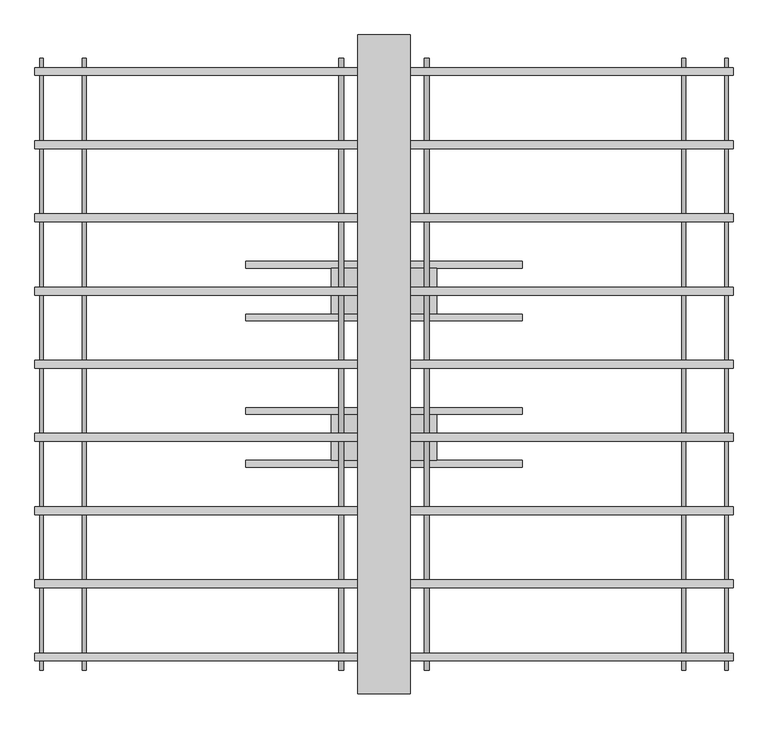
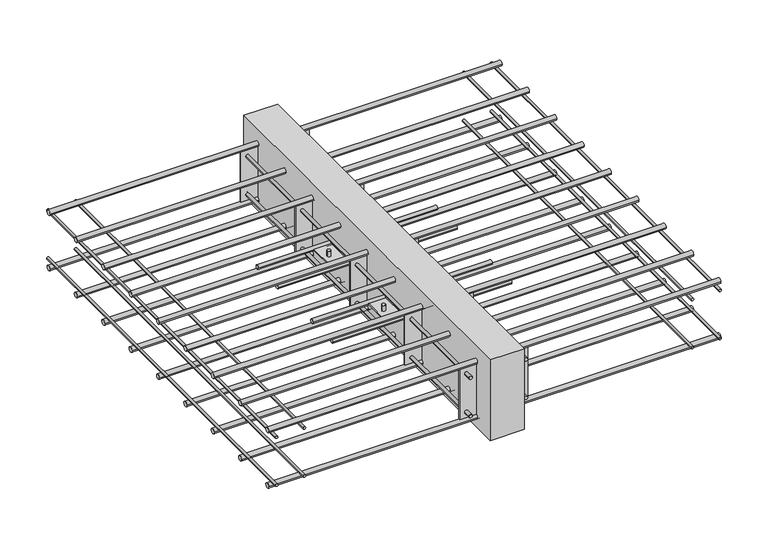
"""IFC4 building model written with IfcOpenShell, lengths in millimetres: proxy geometry, ACINOXplus_Typenreihe_M : MF+ S2."""

from ifc_helpers import new_model, si_unit, point, frame, frame_2d, origin, place, context, project, spatial, polyline, circle_curve, trimmed, segment, composite_curve, outline, extrude, source, transform, mapped, element, save
from ifc_brep_helpers import plane_surface, cylinder_surface, advanced_brep


def generic_models_7ecacc7d(model_context):
    return source(origin(), model_context, "Body", "SolidModel", [
        extrude(outline(composite_curve([segment(trimmed(circle_curve(frame_2d((-151.1111111, -104.5)), 5.0), [point((-156.1111111, -104.5))], [point((-146.1111111, -104.5))], False, "CARTESIAN"), True, "CONTINUOUS"), segment(trimmed(circle_curve(frame_2d((-151.1111111, -104.5)), 5.0), [point((-146.1111111, -104.5))], [point((-156.1111111, -104.5))], False, "CARTESIAN"), True, "CONTINUOUS")], self_intersect=False)), frame((-210.0, 0.0, 0.0), z_axis=(1.0, 0.0, 0.0), x_axis=(0.0, 1.0, 0.0)), (0.0, 0.0, 1.0), 420.0),
        extrude(outline(composite_curve([segment(trimmed(circle_curve(frame_2d((-71.1111111, -104.5)), 5.0), [point((-76.1111111, -104.5))], [point((-66.1111111, -104.5))], False, "CARTESIAN"), True, "CONTINUOUS"), segment(trimmed(circle_curve(frame_2d((-71.1111111, -104.5)), 5.0), [point((-66.1111111, -104.5))], [point((-76.1111111, -104.5))], False, "CARTESIAN"), True, "CONTINUOUS")], self_intersect=False)), frame((-210.0, 0.0, 0.0), z_axis=(1.0, 0.0, 0.0), x_axis=(0.0, 1.0, 0.0)), (0.0, 0.0, 1.0), 420.0),
        advanced_brep(
        [(-69.0, -111.1111111, -89.5), (-61.0, -111.1111111, -89.5), (61.0, -111.1111111, -89.5), (69.0, -111.1111111, -89.5), (-69.0, -111.1111111, -119.5), (-61.0, -111.1111111, -119.5), (61.0, -111.1111111, -119.5), (69.0, -111.1111111, -119.5), (-69.0, -111.1111111, -103.0), (-61.0, -111.1111111, -103.0), (-61.0, -111.1111111, -106.0), (-69.0, -111.1111111, -106.0), (61.0, -111.1111111, -103.0), (69.0, -111.1111111, -103.0), (69.0, -111.1111111, -106.0), (61.0, -111.1111111, -106.0), (80.0, -76.1111111, -103.0), (-80.0, -76.1111111, -103.0), (-80.0, -146.1111111, -103.0), (80.0, -146.1111111, -103.0), (80.0, -76.1111111, -106.0), (80.0, -146.1111111, -106.0), (-80.0, -146.1111111, -106.0), (-80.0, -76.1111111, -106.0)],
        [
            (0, 1, circle_curve(frame((-65.0, -111.1111111, -89.5), z_axis=(0.0, 0.0, 1.0), x_axis=(1.0, 0.0, 0.0)), 4.0)),
            (1, 0, circle_curve(frame((-65.0, -111.1111111, -89.5), z_axis=(0.0, 0.0, 1.0), x_axis=(1.0, 0.0, 0.0)), 4.0)),
            (2, 3, circle_curve(frame((65.0, -111.1111111, -89.5), z_axis=(0.0, 0.0, 1.0), x_axis=(1.0, 0.0, 0.0)), 4.0)),
            (3, 2, circle_curve(frame((65.0, -111.1111111, -89.5), z_axis=(0.0, 0.0, 1.0), x_axis=(1.0, 0.0, 0.0)), 4.0)),
            (4, 5, circle_curve(frame((-65.0, -111.1111111, -119.5), z_axis=(0.0, 0.0, -1.0), x_axis=(1.0, 0.0, 0.0)), 4.0)),
            (5, 4, circle_curve(frame((-65.0, -111.1111111, -119.5), z_axis=(0.0, 0.0, -1.0), x_axis=(1.0, 0.0, 0.0)), 4.0)),
            (6, 7, circle_curve(frame((65.0, -111.1111111, -119.5), z_axis=(0.0, 0.0, -1.0), x_axis=(1.0, 0.0, 0.0)), 4.0)),
            (7, 6, circle_curve(frame((65.0, -111.1111111, -119.5), z_axis=(0.0, 0.0, -1.0), x_axis=(1.0, 0.0, 0.0)), 4.0)),
            (0, 8),
            (8, 9, circle_curve(frame((-65.0, -111.1111111, -103.0), z_axis=(0.0, 0.0, 1.0), x_axis=(1.0, 0.0, 0.0)), 4.0)),
            (9, 1),
            (5, 10),
            (10, 11, circle_curve(frame((-65.0, -111.1111111, -106.0), z_axis=(0.0, 0.0, -1.0), x_axis=(1.0, 0.0, 0.0)), 4.0)),
            (11, 4),
            (9, 8, circle_curve(frame((-65.0, -111.1111111, -103.0), z_axis=(0.0, 0.0, 1.0), x_axis=(1.0, 0.0, 0.0)), 4.0)),
            (11, 10, circle_curve(frame((-65.0, -111.1111111, -106.0), z_axis=(0.0, 0.0, -1.0), x_axis=(1.0, 0.0, 0.0)), 4.0)),
            (2, 12),
            (12, 13, circle_curve(frame((65.0, -111.1111111, -103.0), z_axis=(0.0, 0.0, 1.0), x_axis=(1.0, 0.0, 0.0)), 4.0)),
            (13, 3),
            (7, 14),
            (14, 15, circle_curve(frame((65.0, -111.1111111, -106.0), z_axis=(0.0, 0.0, -1.0), x_axis=(1.0, 0.0, 0.0)), 4.0)),
            (15, 6),
            (13, 12, circle_curve(frame((65.0, -111.1111111, -103.0), z_axis=(0.0, 0.0, 1.0), x_axis=(1.0, 0.0, 0.0)), 4.0)),
            (15, 14, circle_curve(frame((65.0, -111.1111111, -106.0), z_axis=(0.0, 0.0, -1.0), x_axis=(1.0, 0.0, 0.0)), 4.0)),
            (16, 17),
            (17, 18),
            (18, 19),
            (19, 16),
            (20, 21),
            (21, 22),
            (22, 23),
            (23, 20),
            (16, 20),
            (23, 17),
            (22, 18),
            (21, 19),
        ],
        [
            plane_surface(frame((-61.0, -111.1111111, -89.5), z_axis=(0.0, 0.0, 1.0), x_axis=(0.0, 1.0, 0.0))),
            plane_surface(frame((-61.0, -111.1111111, -119.5), z_axis=(0.0, 0.0, -1.0), x_axis=(0.0, -1.0, 0.0))),
            cylinder_surface(frame((-65.0, -111.1111111, -119.5), z_axis=(0.0, 0.0, 1.0), x_axis=(1.0, 0.0, 0.0)), 4.0),
            cylinder_surface(frame((65.0, -111.1111111, -104.5), z_axis=(0.0, 0.0, 1.0), x_axis=(1.0, 0.0, 0.0)), 4.0),
            plane_surface(frame((-80.0, -76.1111111, -103.0), z_axis=(0.0, 0.0, 1.0), x_axis=(-1.0, 0.0, 0.0))),
            plane_surface(frame((-80.0, -76.1111111, -106.0), z_axis=(0.0, 0.0, -1.0), x_axis=(1.0, 0.0, 0.0))),
            plane_surface(frame((80.0, -76.1111111, -103.0), z_axis=(0.0, 1.0, 0.0), x_axis=(0.0, 0.0, -1.0))),
            plane_surface(frame((-80.0, -76.1111111, -103.0), z_axis=(-1.0, 0.0, 0.0), x_axis=(0.0, 0.0, -1.0))),
            plane_surface(frame((-80.0, -146.1111111, -103.0), z_axis=(0.0, -1.0, 0.0), x_axis=(0.0, 0.0, -1.0))),
            plane_surface(frame((80.0, -146.1111111, -103.0), z_axis=(1.0, 0.0, 0.0), x_axis=(0.0, 0.0, -1.0))),
        ],
        [
            (0, [[1, 2]]),
            (0, [[3, 4]]),
            (1, [[5, 6]]),
            (1, [[7, 8]]),
            (2, [[-1, 9, 10, 11]]),
            (2, [[-6, 12, 13, 14]]),
            (2, [[-2, -11, 15, -9]]),
            (2, [[-5, -14, 16, -12]]),
            (3, [[-3, 17, 18, 19]]),
            (3, [[-8, 20, 21, 22]]),
            (3, [[-4, -19, 23, -17]]),
            (3, [[-7, -22, 24, -20]]),
            (4, [[25, 26, 27, 28], [-10, -15], [-18, -23]]),
            (5, [[29, 30, 31, 32], [-13, -16], [-21, -24]]),
            (6, [[-25, 33, -32, 34]]),
            (7, [[-26, -34, -31, 35]]),
            (8, [[-27, -35, -30, 36]]),
            (9, [[-28, -36, -29, -33]]),
        ],
    ),
        extrude(outline(composite_curve([segment(trimmed(circle_curve(frame_2d((71.1111111, -104.5)), 5.0), [point((66.1111111, -104.5))], [point((76.1111111, -104.5))], False, "CARTESIAN"), True, "CONTINUOUS"), segment(trimmed(circle_curve(frame_2d((71.1111111, -104.5)), 5.0), [point((76.1111111, -104.5))], [point((66.1111111, -104.5))], False, "CARTESIAN"), True, "CONTINUOUS")], self_intersect=False)), frame((-210.0, 0.0, 0.0), z_axis=(1.0, 0.0, 0.0), x_axis=(0.0, 1.0, 0.0)), (0.0, 0.0, 1.0), 420.0),
        extrude(outline(composite_curve([segment(trimmed(circle_curve(frame_2d((151.1111111, -104.5)), 5.0), [point((146.1111111, -104.5))], [point((156.1111111, -104.5))], False, "CARTESIAN"), True, "CONTINUOUS"), segment(trimmed(circle_curve(frame_2d((151.1111111, -104.5)), 5.0), [point((156.1111111, -104.5))], [point((146.1111111, -104.5))], False, "CARTESIAN"), True, "CONTINUOUS")], self_intersect=False)), frame((-210.0, 0.0, 0.0), z_axis=(1.0, 0.0, 0.0), x_axis=(0.0, 1.0, 0.0)), (0.0, 0.0, 1.0), 420.0),
        advanced_brep(
        [(-69.0, 111.1111111, -89.5), (-61.0, 111.1111111, -89.5), (61.0, 111.1111111, -89.5), (69.0, 111.1111111, -89.5), (-69.0, 111.1111111, -119.5), (-61.0, 111.1111111, -119.5), (61.0, 111.1111111, -119.5), (69.0, 111.1111111, -119.5), (-69.0, 111.1111111, -103.0), (-61.0, 111.1111111, -103.0), (-61.0, 111.1111111, -106.0), (-69.0, 111.1111111, -106.0), (61.0, 111.1111111, -103.0), (69.0, 111.1111111, -103.0), (69.0, 111.1111111, -106.0), (61.0, 111.1111111, -106.0), (80.0, 146.1111111, -103.0), (-80.0, 146.1111111, -103.0), (-80.0, 76.1111111, -103.0), (80.0, 76.1111111, -103.0), (80.0, 146.1111111, -106.0), (80.0, 76.1111111, -106.0), (-80.0, 76.1111111, -106.0), (-80.0, 146.1111111, -106.0)],
        [
            (0, 1, circle_curve(frame((-65.0, 111.1111111, -89.5), z_axis=(0.0, 0.0, 1.0), x_axis=(1.0, 0.0, 0.0)), 4.0)),
            (1, 0, circle_curve(frame((-65.0, 111.1111111, -89.5), z_axis=(0.0, 0.0, 1.0), x_axis=(1.0, 0.0, 0.0)), 4.0)),
            (2, 3, circle_curve(frame((65.0, 111.1111111, -89.5), z_axis=(0.0, 0.0, 1.0), x_axis=(1.0, 0.0, 0.0)), 4.0)),
            (3, 2, circle_curve(frame((65.0, 111.1111111, -89.5), z_axis=(0.0, 0.0, 1.0), x_axis=(1.0, 0.0, 0.0)), 4.0)),
            (4, 5, circle_curve(frame((-65.0, 111.1111111, -119.5), z_axis=(0.0, 0.0, -1.0), x_axis=(1.0, 0.0, 0.0)), 4.0)),
            (5, 4, circle_curve(frame((-65.0, 111.1111111, -119.5), z_axis=(0.0, 0.0, -1.0), x_axis=(1.0, 0.0, 0.0)), 4.0)),
            (6, 7, circle_curve(frame((65.0, 111.1111111, -119.5), z_axis=(0.0, 0.0, -1.0), x_axis=(1.0, 0.0, 0.0)), 4.0)),
            (7, 6, circle_curve(frame((65.0, 111.1111111, -119.5), z_axis=(0.0, 0.0, -1.0), x_axis=(1.0, 0.0, 0.0)), 4.0)),
            (0, 8),
            (8, 9, circle_curve(frame((-65.0, 111.1111111, -103.0), z_axis=(0.0, 0.0, 1.0), x_axis=(1.0, 0.0, 0.0)), 4.0)),
            (9, 1),
            (5, 10),
            (10, 11, circle_curve(frame((-65.0, 111.1111111, -106.0), z_axis=(0.0, 0.0, -1.0), x_axis=(1.0, 0.0, 0.0)), 4.0)),
            (11, 4),
            (9, 8, circle_curve(frame((-65.0, 111.1111111, -103.0), z_axis=(0.0, 0.0, 1.0), x_axis=(1.0, 0.0, 0.0)), 4.0)),
            (11, 10, circle_curve(frame((-65.0, 111.1111111, -106.0), z_axis=(0.0, 0.0, -1.0), x_axis=(1.0, 0.0, 0.0)), 4.0)),
            (2, 12),
            (12, 13, circle_curve(frame((65.0, 111.1111111, -103.0), z_axis=(0.0, 0.0, 1.0), x_axis=(1.0, 0.0, 0.0)), 4.0)),
            (13, 3),
            (7, 14),
            (14, 15, circle_curve(frame((65.0, 111.1111111, -106.0), z_axis=(0.0, 0.0, -1.0), x_axis=(1.0, 0.0, 0.0)), 4.0)),
            (15, 6),
            (13, 12, circle_curve(frame((65.0, 111.1111111, -103.0), z_axis=(0.0, 0.0, 1.0), x_axis=(1.0, 0.0, 0.0)), 4.0)),
            (15, 14, circle_curve(frame((65.0, 111.1111111, -106.0), z_axis=(0.0, 0.0, -1.0), x_axis=(1.0, 0.0, 0.0)), 4.0)),
            (16, 17),
            (17, 18),
            (18, 19),
            (19, 16),
            (20, 21),
            (21, 22),
            (22, 23),
            (23, 20),
            (16, 20),
            (23, 17),
            (22, 18),
            (21, 19),
        ],
        [
            plane_surface(frame((-61.0, 111.1111111, -89.5), z_axis=(0.0, 0.0, 1.0), x_axis=(0.0, 1.0, 0.0))),
            plane_surface(frame((-61.0, 111.1111111, -119.5), z_axis=(0.0, 0.0, -1.0), x_axis=(0.0, -1.0, 0.0))),
            cylinder_surface(frame((-65.0, 111.1111111, -119.5), z_axis=(0.0, 0.0, 1.0), x_axis=(1.0, 0.0, 0.0)), 4.0),
            cylinder_surface(frame((65.0, 111.1111111, -104.5), z_axis=(0.0, 0.0, 1.0), x_axis=(1.0, 0.0, 0.0)), 4.0),
            plane_surface(frame((-80.0, 146.1111111, -103.0), z_axis=(0.0, 0.0, 1.0), x_axis=(-1.0, 0.0, 0.0))),
            plane_surface(frame((-80.0, 146.1111111, -106.0), z_axis=(0.0, 0.0, -1.0), x_axis=(1.0, 0.0, 0.0))),
            plane_surface(frame((80.0, 146.1111111, -103.0), z_axis=(0.0, 1.0, 0.0), x_axis=(0.0, 0.0, -1.0))),
            plane_surface(frame((-80.0, 146.1111111, -103.0), z_axis=(-1.0, 0.0, 0.0), x_axis=(0.0, 0.0, -1.0))),
            plane_surface(frame((-80.0, 76.1111111, -103.0), z_axis=(0.0, -1.0, 0.0), x_axis=(0.0, 0.0, -1.0))),
            plane_surface(frame((80.0, 76.1111111, -103.0), z_axis=(1.0, 0.0, 0.0), x_axis=(0.0, 0.0, -1.0))),
        ],
        [
            (0, [[1, 2]]),
            (0, [[3, 4]]),
            (1, [[5, 6]]),
            (1, [[7, 8]]),
            (2, [[-1, 9, 10, 11]]),
            (2, [[-6, 12, 13, 14]]),
            (2, [[-2, -11, 15, -9]]),
            (2, [[-5, -14, 16, -12]]),
            (3, [[-3, 17, 18, 19]]),
            (3, [[-8, 20, 21, 22]]),
            (3, [[-4, -19, 23, -17]]),
            (3, [[-7, -22, 24, -20]]),
            (4, [[25, 26, 27, 28], [-10, -15], [-18, -23]]),
            (5, [[29, 30, 31, 32], [-13, -16], [-21, -24]]),
            (6, [[-25, 33, -32, 34]]),
            (7, [[-26, -34, -31, 35]]),
            (8, [[-27, -35, -30, 36]]),
            (9, [[-28, -36, -29, -33]]),
        ],
    ),
        extrude(outline(polyline([(40.0, 500.0), (40.0, -500.0), (-40.0, -500.0), (-40.0, 500.0), (40.0, 500.0)])), frame((0.0, 0.0, -200.0), z_axis=(0.0, 0.0, 1.0), x_axis=(1.0, 0.0, 0.0)), (0.0, 0.0, 1.0), 200.0),
        extrude(outline(polyline([(80.0, -220.7222222), (80.0, -223.7222222), (-80.0, -223.7222222), (-80.0, -220.7222222), (80.0, -220.7222222)])), frame((0.0, 0.0, -167.0), z_axis=(0.0, 0.0, 1.0), x_axis=(1.0, 0.0, 0.0)), (0.0, 0.0, 1.0), 125.0),
        extrude(outline(polyline([(80.0, 1.5), (80.0, -1.5), (-80.0, -1.5), (-80.0, 1.5), (80.0, 1.5)])), frame((0.0, 0.0, -167.0), z_axis=(0.0, 0.0, 1.0), x_axis=(1.0, 0.0, 0.0)), (0.0, 0.0, 1.0), 125.0),
        extrude(outline(polyline([(80.0, 223.7222222), (80.0, 220.7222222), (-80.0, 220.7222222), (-80.0, 223.7222222), (80.0, 223.7222222)])), frame((0.0, 0.0, -167.0), z_axis=(0.0, 0.0, 1.0), x_axis=(1.0, 0.0, 0.0)), (0.0, 0.0, 1.0), 125.0),
        extrude(outline(polyline([(80.0, -442.9444444), (80.0, -445.9444444), (-80.0, -445.9444444), (-80.0, -442.9444444), (80.0, -442.9444444)])), frame((0.0, 0.0, -167.0), z_axis=(0.0, 0.0, 1.0), x_axis=(1.0, 0.0, 0.0)), (0.0, 0.0, 1.0), 125.0),
        extrude(outline(polyline([(80.0, 445.9444444), (80.0, 442.9444444), (-80.0, 442.9444444), (-80.0, 445.9444444), (80.0, 445.9444444)])), frame((0.0, 0.0, -167.0), z_axis=(0.0, 0.0, 1.0), x_axis=(1.0, 0.0, 0.0)), (0.0, 0.0, 1.0), 125.0),
        extrude(outline(composite_curve([segment(trimmed(circle_curve(frame_2d((-152.0, -65.0)), 4.0), [point((-152.0, -61.0))], [point((-152.0, -69.0))], False, "CARTESIAN"), True, "CONTINUOUS"), segment(trimmed(circle_curve(frame_2d((-152.0, -65.0)), 4.0), [point((-152.0, -69.0))], [point((-152.0, -61.0))], False, "CARTESIAN"), True, "CONTINUOUS")], self_intersect=False)), frame((0.0, -464.4444444, 0.0), z_axis=(0.0, 1.0, 0.0), x_axis=(0.0, 0.0, 1.0)), (0.0, 0.0, 1.0), 18.5),
        extrude(outline(composite_curve([segment(trimmed(circle_curve(frame_2d((-152.0, -65.0)), 4.0), [point((-152.0, -69.0))], [point((-152.0, -61.0))], False, "CARTESIAN"), True, "CONTINUOUS"), segment(trimmed(circle_curve(frame_2d((-152.0, -65.0)), 4.0), [point((-152.0, -61.0))], [point((-152.0, -69.0))], False, "CARTESIAN"), True, "CONTINUOUS")], self_intersect=False)), frame((0.0, -442.9444444, 0.0), z_axis=(0.0, 1.0, 0.0), x_axis=(0.0, 0.0, 1.0)), (0.0, 0.0, 1.0), 663.6666667),
        extrude(outline(composite_curve([segment(trimmed(circle_curve(frame_2d((-152.0, -65.0)), 4.0), [point((-152.0, -69.0))], [point((-152.0, -61.0))], False, "CARTESIAN"), True, "CONTINUOUS"), segment(trimmed(circle_curve(frame_2d((-152.0, -65.0)), 4.0), [point((-152.0, -61.0))], [point((-152.0, -69.0))], False, "CARTESIAN"), True, "CONTINUOUS")], self_intersect=False)), frame((0.0, 445.9444444, 0.0), z_axis=(0.0, 1.0, 0.0), x_axis=(0.0, 0.0, 1.0)), (0.0, 0.0, 1.0), 18.5),
        extrude(outline(composite_curve([segment(trimmed(circle_curve(frame_2d((-152.0, -65.0)), 4.0), [point((-152.0, -69.0))], [point((-152.0, -61.0))], False, "CARTESIAN"), True, "CONTINUOUS"), segment(trimmed(circle_curve(frame_2d((-152.0, -65.0)), 4.0), [point((-152.0, -61.0))], [point((-152.0, -69.0))], False, "CARTESIAN"), True, "CONTINUOUS")], self_intersect=False)), frame((0.0, 223.7222222, 0.0), z_axis=(0.0, 1.0, 0.0), x_axis=(0.0, 0.0, 1.0)), (0.0, 0.0, 1.0), 219.2222222),
        extrude(outline(composite_curve([segment(trimmed(circle_curve(frame_2d((-152.0, 65.0)), 4.0), [point((-152.0, 69.0))], [point((-152.0, 61.0))], False, "CARTESIAN"), True, "CONTINUOUS"), segment(trimmed(circle_curve(frame_2d((-152.0, 65.0)), 4.0), [point((-152.0, 61.0))], [point((-152.0, 69.0))], False, "CARTESIAN"), True, "CONTINUOUS")], self_intersect=False)), frame((0.0, -464.4444444, 0.0), z_axis=(0.0, 1.0, 0.0), x_axis=(0.0, 0.0, 1.0)), (0.0, 0.0, 1.0), 18.5),
        extrude(outline(composite_curve([segment(trimmed(circle_curve(frame_2d((-152.0, 65.0)), 4.0), [point((-152.0, 61.0))], [point((-152.0, 69.0))], False, "CARTESIAN"), True, "CONTINUOUS"), segment(trimmed(circle_curve(frame_2d((-152.0, 65.0)), 4.0), [point((-152.0, 69.0))], [point((-152.0, 61.0))], False, "CARTESIAN"), True, "CONTINUOUS")], self_intersect=False)), frame((0.0, -442.9444444, 0.0), z_axis=(0.0, 1.0, 0.0), x_axis=(0.0, 0.0, 1.0)), (0.0, 0.0, 1.0), 663.6666667),
        extrude(outline(composite_curve([segment(trimmed(circle_curve(frame_2d((-152.0, 65.0)), 4.0), [point((-152.0, 61.0))], [point((-152.0, 69.0))], False, "CARTESIAN"), True, "CONTINUOUS"), segment(trimmed(circle_curve(frame_2d((-152.0, 65.0)), 4.0), [point((-152.0, 69.0))], [point((-152.0, 61.0))], False, "CARTESIAN"), True, "CONTINUOUS")], self_intersect=False)), frame((0.0, 445.9444444, 0.0), z_axis=(0.0, 1.0, 0.0), x_axis=(0.0, 0.0, 1.0)), (0.0, 0.0, 1.0), 18.5),
        extrude(outline(composite_curve([segment(trimmed(circle_curve(frame_2d((-152.0, 65.0)), 4.0), [point((-152.0, 61.0))], [point((-152.0, 69.0))], False, "CARTESIAN"), True, "CONTINUOUS"), segment(trimmed(circle_curve(frame_2d((-152.0, 65.0)), 4.0), [point((-152.0, 69.0))], [point((-152.0, 61.0))], False, "CARTESIAN"), True, "CONTINUOUS")], self_intersect=False)), frame((0.0, 223.7222222, 0.0), z_axis=(0.0, 1.0, 0.0), x_axis=(0.0, 0.0, 1.0)), (0.0, 0.0, 1.0), 219.2222222),
        extrude(outline(composite_curve([segment(trimmed(circle_curve(frame_2d((-57.0, -65.0)), 4.0), [point((-57.0, -61.0))], [point((-57.0, -69.0))], False, "CARTESIAN"), True, "CONTINUOUS"), segment(trimmed(circle_curve(frame_2d((-57.0, -65.0)), 4.0), [point((-57.0, -69.0))], [point((-57.0, -61.0))], False, "CARTESIAN"), True, "CONTINUOUS")], self_intersect=False)), frame((0.0, -464.4444444, 0.0), z_axis=(0.0, 1.0, 0.0), x_axis=(0.0, 0.0, 1.0)), (0.0, 0.0, 1.0), 18.5),
        extrude(outline(composite_curve([segment(trimmed(circle_curve(frame_2d((-57.0, -65.0)), 4.0), [point((-57.0, -69.0))], [point((-57.0, -61.0))], False, "CARTESIAN"), True, "CONTINUOUS"), segment(trimmed(circle_curve(frame_2d((-57.0, -65.0)), 4.0), [point((-57.0, -61.0))], [point((-57.0, -69.0))], False, "CARTESIAN"), True, "CONTINUOUS")], self_intersect=False)), frame((0.0, -442.9444444, 0.0), z_axis=(0.0, 1.0, 0.0), x_axis=(0.0, 0.0, 1.0)), (0.0, 0.0, 1.0), 663.6666667),
        extrude(outline(composite_curve([segment(trimmed(circle_curve(frame_2d((-57.0, -65.0)), 4.0), [point((-57.0, -69.0))], [point((-57.0, -61.0))], False, "CARTESIAN"), True, "CONTINUOUS"), segment(trimmed(circle_curve(frame_2d((-57.0, -65.0)), 4.0), [point((-57.0, -61.0))], [point((-57.0, -69.0))], False, "CARTESIAN"), True, "CONTINUOUS")], self_intersect=False)), frame((0.0, 445.9444444, 0.0), z_axis=(0.0, 1.0, 0.0), x_axis=(0.0, 0.0, 1.0)), (0.0, 0.0, 1.0), 18.5),
        extrude(outline(composite_curve([segment(trimmed(circle_curve(frame_2d((-57.0, -65.0)), 4.0), [point((-57.0, -69.0))], [point((-57.0, -61.0))], False, "CARTESIAN"), True, "CONTINUOUS"), segment(trimmed(circle_curve(frame_2d((-57.0, -65.0)), 4.0), [point((-57.0, -61.0))], [point((-57.0, -69.0))], False, "CARTESIAN"), True, "CONTINUOUS")], self_intersect=False)), frame((0.0, 223.7222222, 0.0), z_axis=(0.0, 1.0, 0.0), x_axis=(0.0, 0.0, 1.0)), (0.0, 0.0, 1.0), 219.2222222),
        extrude(outline(composite_curve([segment(trimmed(circle_curve(frame_2d((-57.0, 65.0)), 4.0), [point((-57.0, 69.0))], [point((-57.0, 61.0))], False, "CARTESIAN"), True, "CONTINUOUS"), segment(trimmed(circle_curve(frame_2d((-57.0, 65.0)), 4.0), [point((-57.0, 61.0))], [point((-57.0, 69.0))], False, "CARTESIAN"), True, "CONTINUOUS")], self_intersect=False)), frame((0.0, -464.4444444, 0.0), z_axis=(0.0, 1.0, 0.0), x_axis=(0.0, 0.0, 1.0)), (0.0, 0.0, 1.0), 18.5),
        extrude(outline(composite_curve([segment(trimmed(circle_curve(frame_2d((-57.0, 65.0)), 4.0), [point((-57.0, 61.0))], [point((-57.0, 69.0))], False, "CARTESIAN"), True, "CONTINUOUS"), segment(trimmed(circle_curve(frame_2d((-57.0, 65.0)), 4.0), [point((-57.0, 69.0))], [point((-57.0, 61.0))], False, "CARTESIAN"), True, "CONTINUOUS")], self_intersect=False)), frame((0.0, -442.9444444, 0.0), z_axis=(0.0, 1.0, 0.0), x_axis=(0.0, 0.0, 1.0)), (0.0, 0.0, 1.0), 663.6666667),
        extrude(outline(composite_curve([segment(trimmed(circle_curve(frame_2d((-57.0, 65.0)), 4.0), [point((-57.0, 61.0))], [point((-57.0, 69.0))], False, "CARTESIAN"), True, "CONTINUOUS"), segment(trimmed(circle_curve(frame_2d((-57.0, 65.0)), 4.0), [point((-57.0, 69.0))], [point((-57.0, 61.0))], False, "CARTESIAN"), True, "CONTINUOUS")], self_intersect=False)), frame((0.0, 445.9444444, 0.0), z_axis=(0.0, 1.0, 0.0), x_axis=(0.0, 0.0, 1.0)), (0.0, 0.0, 1.0), 18.5),
        extrude(outline(composite_curve([segment(trimmed(circle_curve(frame_2d((-57.0, 65.0)), 4.0), [point((-57.0, 61.0))], [point((-57.0, 69.0))], False, "CARTESIAN"), True, "CONTINUOUS"), segment(trimmed(circle_curve(frame_2d((-57.0, 65.0)), 4.0), [point((-57.0, 69.0))], [point((-57.0, 61.0))], False, "CARTESIAN"), True, "CONTINUOUS")], self_intersect=False)), frame((0.0, 223.7222222, 0.0), z_axis=(0.0, 1.0, 0.0), x_axis=(0.0, 0.0, 1.0)), (0.0, 0.0, 1.0), 219.2222222),
        extrude(outline(composite_curve([segment(trimmed(circle_curve(frame_2d((222.2222222, -173.0)), 6.0), [point((216.2222222, -173.0))], [point((228.2222222, -173.0))], False, "CARTESIAN"), True, "CONTINUOUS"), segment(trimmed(circle_curve(frame_2d((222.2222222, -173.0)), 6.0), [point((228.2222222, -173.0))], [point((216.2222222, -173.0))], False, "CARTESIAN"), True, "CONTINUOUS")], self_intersect=False)), frame((-530.0, 0.0, 0.0), z_axis=(1.0, 0.0, 0.0), x_axis=(0.0, 1.0, 0.0)), (0.0, 0.0, 1.0), 1060.0),
        extrude(outline(composite_curve([segment(trimmed(circle_curve(frame_2d((111.1111111, -173.0)), 6.0), [point((105.1111111, -173.0))], [point((117.1111111, -173.0))], False, "CARTESIAN"), True, "CONTINUOUS"), segment(trimmed(circle_curve(frame_2d((111.1111111, -173.0)), 6.0), [point((117.1111111, -173.0))], [point((105.1111111, -173.0))], False, "CARTESIAN"), True, "CONTINUOUS")], self_intersect=False)), frame((-530.0, 0.0, 0.0), z_axis=(1.0, 0.0, 0.0), x_axis=(0.0, 1.0, 0.0)), (0.0, 0.0, 1.0), 1060.0),
        extrude(outline(composite_curve([segment(trimmed(circle_curve(frame_2d((0.0, -173.0)), 6.0), [point((-6.0, -173.0))], [point((6.0, -173.0))], False, "CARTESIAN"), True, "CONTINUOUS"), segment(trimmed(circle_curve(frame_2d((0.0, -173.0)), 6.0), [point((6.0, -173.0))], [point((-6.0, -173.0))], False, "CARTESIAN"), True, "CONTINUOUS")], self_intersect=False)), frame((-530.0, 0.0, 0.0), z_axis=(1.0, 0.0, 0.0), x_axis=(0.0, 1.0, 0.0)), (0.0, 0.0, 1.0), 1060.0),
        extrude(outline(composite_curve([segment(trimmed(circle_curve(frame_2d((-111.1111111, -173.0)), 6.0), [point((-117.1111111, -173.0))], [point((-105.1111111, -173.0))], False, "CARTESIAN"), True, "CONTINUOUS"), segment(trimmed(circle_curve(frame_2d((-111.1111111, -173.0)), 6.0), [point((-105.1111111, -173.0))], [point((-117.1111111, -173.0))], False, "CARTESIAN"), True, "CONTINUOUS")], self_intersect=False)), frame((-530.0, 0.0, 0.0), z_axis=(1.0, 0.0, 0.0), x_axis=(0.0, 1.0, 0.0)), (0.0, 0.0, 1.0), 1060.0),
        extrude(outline(composite_curve([segment(trimmed(circle_curve(frame_2d((-222.2222222, -173.0)), 6.0), [point((-228.2222222, -173.0))], [point((-216.2222222, -173.0))], False, "CARTESIAN"), True, "CONTINUOUS"), segment(trimmed(circle_curve(frame_2d((-222.2222222, -173.0)), 6.0), [point((-216.2222222, -173.0))], [point((-228.2222222, -173.0))], False, "CARTESIAN"), True, "CONTINUOUS")], self_intersect=False)), frame((-530.0, 0.0, 0.0), z_axis=(1.0, 0.0, 0.0), x_axis=(0.0, 1.0, 0.0)), (0.0, 0.0, 1.0), 1060.0),
        extrude(outline(composite_curve([segment(trimmed(circle_curve(frame_2d((333.3333333, -173.0)), 6.0), [point((327.3333333, -173.0))], [point((339.3333333, -173.0))], False, "CARTESIAN"), True, "CONTINUOUS"), segment(trimmed(circle_curve(frame_2d((333.3333333, -173.0)), 6.0), [point((339.3333333, -173.0))], [point((327.3333333, -173.0))], False, "CARTESIAN"), True, "CONTINUOUS")], self_intersect=False)), frame((-530.0, 0.0, 0.0), z_axis=(1.0, 0.0, 0.0), x_axis=(0.0, 1.0, 0.0)), (0.0, 0.0, 1.0), 1060.0),
        extrude(outline(composite_curve([segment(trimmed(circle_curve(frame_2d((444.4444444, -173.0)), 6.0), [point((438.4444444, -173.0))], [point((450.4444444, -173.0))], False, "CARTESIAN"), True, "CONTINUOUS"), segment(trimmed(circle_curve(frame_2d((444.4444444, -173.0)), 6.0), [point((450.4444444, -173.0))], [point((438.4444444, -173.0))], False, "CARTESIAN"), True, "CONTINUOUS")], self_intersect=False)), frame((-530.0, 0.0, 0.0), z_axis=(1.0, 0.0, 0.0), x_axis=(0.0, 1.0, 0.0)), (0.0, 0.0, 1.0), 1060.0),
        extrude(outline(composite_curve([segment(trimmed(circle_curve(frame_2d((-333.3333333, -173.0)), 6.0), [point((-339.3333333, -173.0))], [point((-327.3333333, -173.0))], False, "CARTESIAN"), True, "CONTINUOUS"), segment(trimmed(circle_curve(frame_2d((-333.3333333, -173.0)), 6.0), [point((-327.3333333, -173.0))], [point((-339.3333333, -173.0))], False, "CARTESIAN"), True, "CONTINUOUS")], self_intersect=False)), frame((-530.0, 0.0, 0.0), z_axis=(1.0, 0.0, 0.0), x_axis=(0.0, 1.0, 0.0)), (0.0, 0.0, 1.0), 1060.0),
        extrude(outline(composite_curve([segment(trimmed(circle_curve(frame_2d((-444.4444444, -173.0)), 6.0), [point((-450.4444444, -173.0))], [point((-438.4444444, -173.0))], False, "CARTESIAN"), True, "CONTINUOUS"), segment(trimmed(circle_curve(frame_2d((-444.4444444, -173.0)), 6.0), [point((-438.4444444, -173.0))], [point((-450.4444444, -173.0))], False, "CARTESIAN"), True, "CONTINUOUS")], self_intersect=False)), frame((-530.0, 0.0, 0.0), z_axis=(1.0, 0.0, 0.0), x_axis=(0.0, 1.0, 0.0)), (0.0, 0.0, 1.0), 1060.0),
        extrude(outline(composite_curve([segment(trimmed(circle_curve(frame_2d((222.2222222, -36.0)), 6.0), [point((216.2222222, -36.0))], [point((228.2222222, -36.0))], False, "CARTESIAN"), True, "CONTINUOUS"), segment(trimmed(circle_curve(frame_2d((222.2222222, -36.0)), 6.0), [point((228.2222222, -36.0))], [point((216.2222222, -36.0))], False, "CARTESIAN"), True, "CONTINUOUS")], self_intersect=False)), frame((-530.0, 0.0, 0.0), z_axis=(1.0, 0.0, 0.0), x_axis=(0.0, 1.0, 0.0)), (0.0, 0.0, 1.0), 1060.0),
        extrude(outline(composite_curve([segment(trimmed(circle_curve(frame_2d((111.1111111, -36.0)), 6.0), [point((105.1111111, -36.0))], [point((117.1111111, -36.0))], False, "CARTESIAN"), True, "CONTINUOUS"), segment(trimmed(circle_curve(frame_2d((111.1111111, -36.0)), 6.0), [point((117.1111111, -36.0))], [point((105.1111111, -36.0))], False, "CARTESIAN"), True, "CONTINUOUS")], self_intersect=False)), frame((-530.0, 0.0, 0.0), z_axis=(1.0, 0.0, 0.0), x_axis=(0.0, 1.0, 0.0)), (0.0, 0.0, 1.0), 1060.0),
        extrude(outline(composite_curve([segment(trimmed(circle_curve(frame_2d((0.0, -36.0)), 6.0), [point((-6.0, -36.0))], [point((6.0, -36.0))], False, "CARTESIAN"), True, "CONTINUOUS"), segment(trimmed(circle_curve(frame_2d((0.0, -36.0)), 6.0), [point((6.0, -36.0))], [point((-6.0, -36.0))], False, "CARTESIAN"), True, "CONTINUOUS")], self_intersect=False)), frame((-530.0, 0.0, 0.0), z_axis=(1.0, 0.0, 0.0), x_axis=(0.0, 1.0, 0.0)), (0.0, 0.0, 1.0), 1060.0),
        extrude(outline(composite_curve([segment(trimmed(circle_curve(frame_2d((-111.1111111, -36.0)), 6.0), [point((-117.1111111, -36.0))], [point((-105.1111111, -36.0))], False, "CARTESIAN"), True, "CONTINUOUS"), segment(trimmed(circle_curve(frame_2d((-111.1111111, -36.0)), 6.0), [point((-105.1111111, -36.0))], [point((-117.1111111, -36.0))], False, "CARTESIAN"), True, "CONTINUOUS")], self_intersect=False)), frame((-530.0, 0.0, 0.0), z_axis=(1.0, 0.0, 0.0), x_axis=(0.0, 1.0, 0.0)), (0.0, 0.0, 1.0), 1060.0),
        extrude(outline(composite_curve([segment(trimmed(circle_curve(frame_2d((-222.2222222, -36.0)), 6.0), [point((-228.2222222, -36.0))], [point((-216.2222222, -36.0))], False, "CARTESIAN"), True, "CONTINUOUS"), segment(trimmed(circle_curve(frame_2d((-222.2222222, -36.0)), 6.0), [point((-216.2222222, -36.0))], [point((-228.2222222, -36.0))], False, "CARTESIAN"), True, "CONTINUOUS")], self_intersect=False)), frame((-530.0, 0.0, 0.0), z_axis=(1.0, 0.0, 0.0), x_axis=(0.0, 1.0, 0.0)), (0.0, 0.0, 1.0), 1060.0),
        extrude(outline(composite_curve([segment(trimmed(circle_curve(frame_2d((333.3333333, -36.0)), 6.0), [point((327.3333333, -36.0))], [point((339.3333333, -36.0))], False, "CARTESIAN"), True, "CONTINUOUS"), segment(trimmed(circle_curve(frame_2d((333.3333333, -36.0)), 6.0), [point((339.3333333, -36.0))], [point((327.3333333, -36.0))], False, "CARTESIAN"), True, "CONTINUOUS")], self_intersect=False)), frame((-530.0, 0.0, 0.0), z_axis=(1.0, 0.0, 0.0), x_axis=(0.0, 1.0, 0.0)), (0.0, 0.0, 1.0), 1060.0),
        extrude(outline(composite_curve([segment(trimmed(circle_curve(frame_2d((444.4444444, -36.0)), 6.0), [point((438.4444444, -36.0))], [point((450.4444444, -36.0))], False, "CARTESIAN"), True, "CONTINUOUS"), segment(trimmed(circle_curve(frame_2d((444.4444444, -36.0)), 6.0), [point((450.4444444, -36.0))], [point((438.4444444, -36.0))], False, "CARTESIAN"), True, "CONTINUOUS")], self_intersect=False)), frame((-530.0, 0.0, 0.0), z_axis=(1.0, 0.0, 0.0), x_axis=(0.0, 1.0, 0.0)), (0.0, 0.0, 1.0), 1060.0),
        extrude(outline(composite_curve([segment(trimmed(circle_curve(frame_2d((-333.3333333, -36.0)), 6.0), [point((-339.3333333, -36.0))], [point((-327.3333333, -36.0))], False, "CARTESIAN"), True, "CONTINUOUS"), segment(trimmed(circle_curve(frame_2d((-333.3333333, -36.0)), 6.0), [point((-327.3333333, -36.0))], [point((-339.3333333, -36.0))], False, "CARTESIAN"), True, "CONTINUOUS")], self_intersect=False)), frame((-530.0, 0.0, 0.0), z_axis=(1.0, 0.0, 0.0), x_axis=(0.0, 1.0, 0.0)), (0.0, 0.0, 1.0), 1060.0),
        extrude(outline(composite_curve([segment(trimmed(circle_curve(frame_2d((-444.4444444, -36.0)), 6.0), [point((-450.4444444, -36.0))], [point((-438.4444444, -36.0))], False, "CARTESIAN"), True, "CONTINUOUS"), segment(trimmed(circle_curve(frame_2d((-444.4444444, -36.0)), 6.0), [point((-438.4444444, -36.0))], [point((-450.4444444, -36.0))], False, "CARTESIAN"), True, "CONTINUOUS")], self_intersect=False)), frame((-530.0, 0.0, 0.0), z_axis=(1.0, 0.0, 0.0), x_axis=(0.0, 1.0, 0.0)), (0.0, 0.0, 1.0), 1060.0),
        extrude(outline(composite_curve([segment(trimmed(circle_curve(frame_2d((-164.0, -520.0)), 3.0), [point((-164.0, -517.0))], [point((-164.0, -523.0))], False, "CARTESIAN"), True, "CONTINUOUS"), segment(trimmed(circle_curve(frame_2d((-164.0, -520.0)), 3.0), [point((-164.0, -523.0))], [point((-164.0, -517.0))], False, "CARTESIAN"), True, "CONTINUOUS")], self_intersect=False)), frame((0.0, -464.4444444, 0.0), z_axis=(0.0, 1.0, 0.0), x_axis=(0.0, 0.0, 1.0)), (0.0, 0.0, 1.0), 928.8888889),
        extrude(outline(composite_curve([segment(trimmed(circle_curve(frame_2d((-164.0, -455.0)), 3.0), [point((-164.0, -452.0))], [point((-164.0, -458.0))], False, "CARTESIAN"), True, "CONTINUOUS"), segment(trimmed(circle_curve(frame_2d((-164.0, -455.0)), 3.0), [point((-164.0, -458.0))], [point((-164.0, -452.0))], False, "CARTESIAN"), True, "CONTINUOUS")], self_intersect=False)), frame((0.0, -464.4444444, 0.0), z_axis=(0.0, 1.0, 0.0), x_axis=(0.0, 0.0, 1.0)), (0.0, 0.0, 1.0), 928.8888889),
        extrude(outline(composite_curve([segment(trimmed(circle_curve(frame_2d((-164.0, 455.0)), 3.0), [point((-164.0, 458.0))], [point((-164.0, 452.0))], False, "CARTESIAN"), True, "CONTINUOUS"), segment(trimmed(circle_curve(frame_2d((-164.0, 455.0)), 3.0), [point((-164.0, 452.0))], [point((-164.0, 458.0))], False, "CARTESIAN"), True, "CONTINUOUS")], self_intersect=False)), frame((0.0, -464.4444444, 0.0), z_axis=(0.0, 1.0, 0.0), x_axis=(0.0, 0.0, 1.0)), (0.0, 0.0, 1.0), 928.8888889),
        extrude(outline(composite_curve([segment(trimmed(circle_curve(frame_2d((-164.0, 520.0)), 3.0), [point((-164.0, 523.0))], [point((-164.0, 517.0))], False, "CARTESIAN"), True, "CONTINUOUS"), segment(trimmed(circle_curve(frame_2d((-164.0, 520.0)), 3.0), [point((-164.0, 517.0))], [point((-164.0, 523.0))], False, "CARTESIAN"), True, "CONTINUOUS")], self_intersect=False)), frame((0.0, -464.4444444, 0.0), z_axis=(0.0, 1.0, 0.0), x_axis=(0.0, 0.0, 1.0)), (0.0, 0.0, 1.0), 928.8888889),
        extrude(outline(composite_curve([segment(trimmed(circle_curve(frame_2d((-45.0, 455.0)), 3.0), [point((-45.0, 458.0))], [point((-45.0, 452.0))], False, "CARTESIAN"), True, "CONTINUOUS"), segment(trimmed(circle_curve(frame_2d((-45.0, 455.0)), 3.0), [point((-45.0, 452.0))], [point((-45.0, 458.0))], False, "CARTESIAN"), True, "CONTINUOUS")], self_intersect=False)), frame((0.0, -464.4444444, 0.0), z_axis=(0.0, 1.0, 0.0), x_axis=(0.0, 0.0, 1.0)), (0.0, 0.0, 1.0), 928.8888889),
        extrude(outline(composite_curve([segment(trimmed(circle_curve(frame_2d((-45.0, 520.0)), 3.0), [point((-45.0, 523.0))], [point((-45.0, 517.0))], False, "CARTESIAN"), True, "CONTINUOUS"), segment(trimmed(circle_curve(frame_2d((-45.0, 520.0)), 3.0), [point((-45.0, 517.0))], [point((-45.0, 523.0))], False, "CARTESIAN"), True, "CONTINUOUS")], self_intersect=False)), frame((0.0, -464.4444444, 0.0), z_axis=(0.0, 1.0, 0.0), x_axis=(0.0, 0.0, 1.0)), (0.0, 0.0, 1.0), 928.8888889),
        extrude(outline(composite_curve([segment(trimmed(circle_curve(frame_2d((-45.0, -520.0)), 3.0), [point((-45.0, -517.0))], [point((-45.0, -523.0))], False, "CARTESIAN"), True, "CONTINUOUS"), segment(trimmed(circle_curve(frame_2d((-45.0, -520.0)), 3.0), [point((-45.0, -523.0))], [point((-45.0, -517.0))], False, "CARTESIAN"), True, "CONTINUOUS")], self_intersect=False)), frame((0.0, -464.4444444, 0.0), z_axis=(0.0, 1.0, 0.0), x_axis=(0.0, 0.0, 1.0)), (0.0, 0.0, 1.0), 928.8888889),
        extrude(outline(composite_curve([segment(trimmed(circle_curve(frame_2d((-45.0, -455.0)), 3.0), [point((-45.0, -452.0))], [point((-45.0, -458.0))], False, "CARTESIAN"), True, "CONTINUOUS"), segment(trimmed(circle_curve(frame_2d((-45.0, -455.0)), 3.0), [point((-45.0, -458.0))], [point((-45.0, -452.0))], False, "CARTESIAN"), True, "CONTINUOUS")], self_intersect=False)), frame((0.0, -464.4444444, 0.0), z_axis=(0.0, 1.0, 0.0), x_axis=(0.0, 0.0, 1.0)), (0.0, 0.0, 1.0), 928.8888889),
    ])


if __name__ == "__main__":
    model = new_model("IFC4")
    model_context = context("Model", 3, world=origin())
    ifc_project = project(units=[si_unit("LENGTHUNIT", "METRE", prefix="MILLI")], contexts=[model_context])
    site = spatial("IfcSite", under=ifc_project)
    building = spatial("IfcBuilding", under=site)
    placement = place(None, origin())
    generic_models_shape = generic_models_7ecacc7d(model_context)
    element("IfcBuildingElementProxy", 1, Name="ACINOXplus_Typenreihe_M : MF+ S2", ObjectType="ACINOXplus_Typenreihe_M : MF+ S2", at=placement, inside=building, context=model_context, shape_type="MappedRepresentation", body=[
        mapped(generic_models_shape, transform((0.0, 0.0, 0.0), x_axis=(1.0, 0.0, 0.0), y_axis=(0.0, 1.0, 0.0), z_axis=(0.0, 0.0, 1.0))),
    ])
    save(model, "model.ifc")
